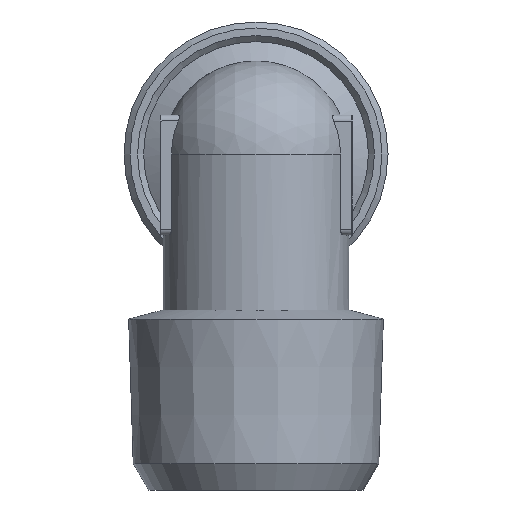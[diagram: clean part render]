
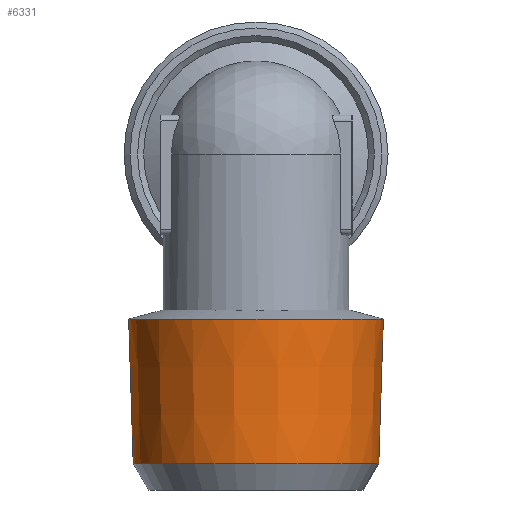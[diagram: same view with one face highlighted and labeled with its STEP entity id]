
A CAD part, left-side view. The second image highlights one B-rep face of the part: STEP entity #6331.
In plain terms, the highlighted conical face has half-angle 1.79 degrees and reference radius 10.634 mm.
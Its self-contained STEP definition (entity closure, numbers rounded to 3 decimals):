
#1992=ORIENTED_EDGE('',*,*,#2419,.F.);
#1993=ORIENTED_EDGE('',*,*,#2420,.F.);
#2197=CIRCLE('',#6208,10.234);
#2198=CIRCLE('',#6210,10.61);
#2288=VERTEX_POINT('',#4135);
#2289=VERTEX_POINT('',#4138);
#2419=EDGE_CURVE('',#2288,#2288,#2197,.T.);
#2420=EDGE_CURVE('',#2289,#2289,#2198,.T.);
#2560=EDGE_LOOP('',(#1992));
#2561=EDGE_LOOP('',(#1993));
#2667=FACE_BOUND('',#2560,.T.);
#2668=FACE_BOUND('',#2561,.T.);
#2930=DIRECTION('',(0.,-1.,0.));
#2931=DIRECTION('',(0.,0.,10.234));
#2932=DIRECTION('',(0.,1.,0.));
#2933=DIRECTION('',(0.,0.,1.));
#2934=DIRECTION('',(0.,1.,0.));
#2935=DIRECTION('',(0.,0.,10.61));
#4135=CARTESIAN_POINT('',(28.235,19.29,10.234));
#4136=CARTESIAN_POINT('',(28.235,19.29,0.));
#4137=CARTESIAN_POINT('',(28.235,32.09,0.));
#4138=CARTESIAN_POINT('',(28.235,31.324,10.61));
#4139=CARTESIAN_POINT('',(28.235,31.324,0.));
#6208=AXIS2_PLACEMENT_3D('',#4136,#2930,#2931);
#6209=AXIS2_PLACEMENT_3D('',#4137,#2932,#2933);
#6210=AXIS2_PLACEMENT_3D('',#4139,#2934,#2935);
#6283=CONICAL_SURFACE('',#6209,10.634,1.79);
#6331=ADVANCED_FACE('',(#2667,#2668),#6283,.T.);
